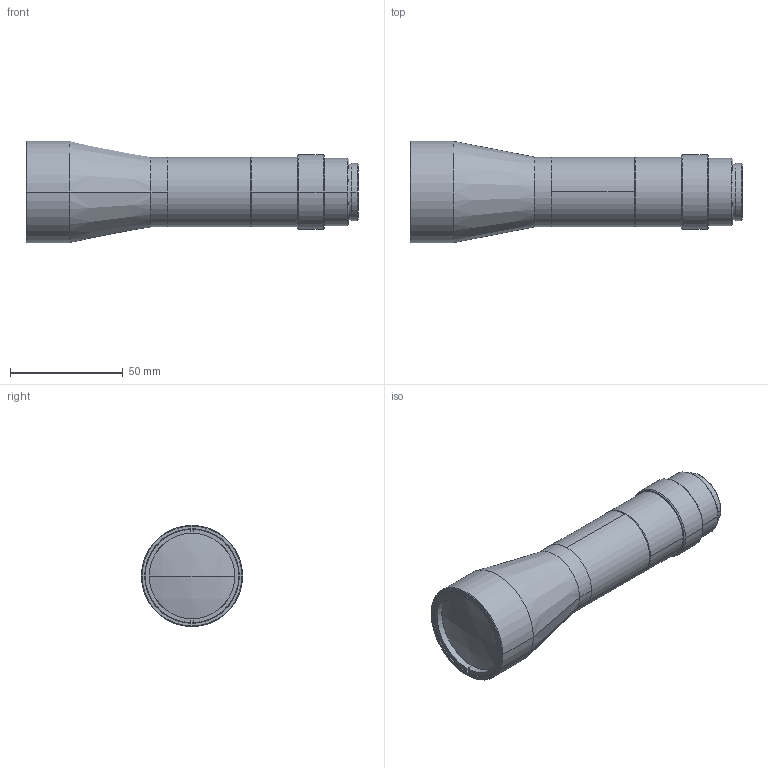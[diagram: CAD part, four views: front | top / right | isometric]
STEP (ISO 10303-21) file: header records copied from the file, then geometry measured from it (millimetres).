
FILE_DESCRIPTION (( 'STEP AP214' ), '1' );
FILE_NAME ('FJ1380-001／TEC-V0565MPW.STEP', '2021-03-03T07:21:02', ( '' ), ( '' ), 'SwSTEP 2.0', 'SolidWorks 2019', '' );
FILE_SCHEMA (( 'AUTOMOTIVE_DESIGN' ));
Length unit declared in the file: millimetre
Products named in the file (8): FJ1380-104-R02(梨地,塗装); FJ1380-101-B-R00(梨地,塗装,分割); FJ1380-G01-D; FJ1380-102-R00; FJ1380-107-R00; FJ1380-101-A-R00(梨地,塗装,分割); FJ1380-001／TEC-V0565MPW; FJ1380-G05-D
Assembly tree (7 placements, depth 2):
  FJ1380-001／TEC-V0565MPW
    FJ1380-101-A-R00(梨地,塗装,分割)
    FJ1380-G01-D
    FJ1380-102-R00
    FJ1380-101-B-R00(梨地,塗装,分割)
    FJ1380-104-R02(梨地,塗装)
    FJ1380-G05-D
    FJ1380-107-R00
Bounding box: 147.43 x 45 x 45 mm (x, y, z)
Volume: 68375.7 mm3; surface area: 43668.2 mm2
Topology: 7 solids, 7 shells, 438 faces, 902 edges, 510 vertices
Faces by surface type: cone 276, cylinder 96, plane 58, sphere 8
Entity records: 11786 total; most frequent: DIRECTION 2284, CARTESIAN_POINT 1884, ORIENTED_EDGE 1804, AXIS2_PLACEMENT_3D 942, EDGE_CURVE 902, VERTEX_POINT 510, CIRCLE 494, EDGE_LOOP 480
